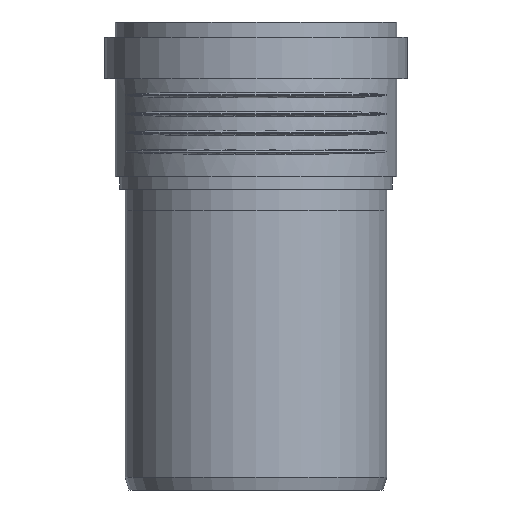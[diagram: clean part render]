
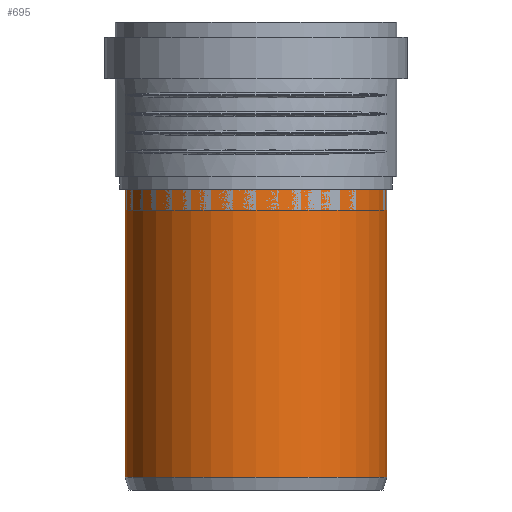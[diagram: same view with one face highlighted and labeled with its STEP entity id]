
A CAD part, front view. The second image highlights one B-rep face of the part: STEP entity #695.
In plain terms, the highlighted cylindrical face has radius 62.6 mm (diameter 125.2 mm), a full revolution.
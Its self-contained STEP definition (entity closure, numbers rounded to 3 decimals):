
#94=CYLINDRICAL_SURFACE($,#750,62.6);
#118=FACE_BOUND($,#198,.T.);
#153=FACE_OUTER_BOUND($,#197,.T.);
#197=EDGE_LOOP($,(#472));
#198=EDGE_LOOP($,(#473));
#272=CIRCLE($,#747,62.6);
#274=CIRCLE($,#751,62.6);
#311=VERTEX_POINT($,#1021);
#313=VERTEX_POINT($,#1027);
#382=EDGE_CURVE($,#311,#311,#272,.T.);
#384=EDGE_CURVE($,#313,#313,#274,.T.);
#472=ORIENTED_EDGE($,*,*,#384,.T.);
#473=ORIENTED_EDGE($,*,*,#382,.F.);
#695=ADVANCED_FACE($,(#153,#118),#94,.T.);
#747=AXIS2_PLACEMENT_3D($,#1022,#841,#842);
#750=AXIS2_PLACEMENT_3D($,#1026,#847,#848);
#751=AXIS2_PLACEMENT_3D($,#1028,#849,#850);
#841=DIRECTION('center_axis',(0.,0.,-1.));
#842=DIRECTION('ref_axis',(-1.,0.,0.));
#847=DIRECTION('center_axis',(0.,0.,1.));
#848=DIRECTION('ref_axis',(-1.,0.,0.));
#849=DIRECTION('center_axis',(0.,0.,-1.));
#850=DIRECTION('ref_axis',(-1.,0.,0.));
#1021=CARTESIAN_POINT('',(62.6,0.,-65.9));
#1022=CARTESIAN_POINT('Origin',(0.,0.,-65.9));
#1026=CARTESIAN_POINT('Origin',(0.,0.,0.));
#1027=CARTESIAN_POINT('',(62.6,0.,71.9));
#1028=CARTESIAN_POINT('Origin',(0.,0.,71.9));
